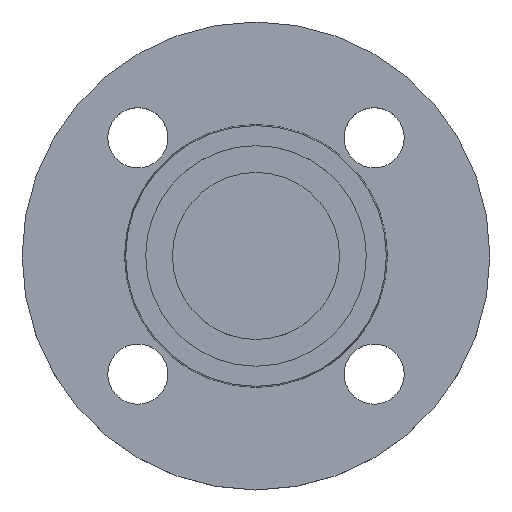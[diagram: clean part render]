
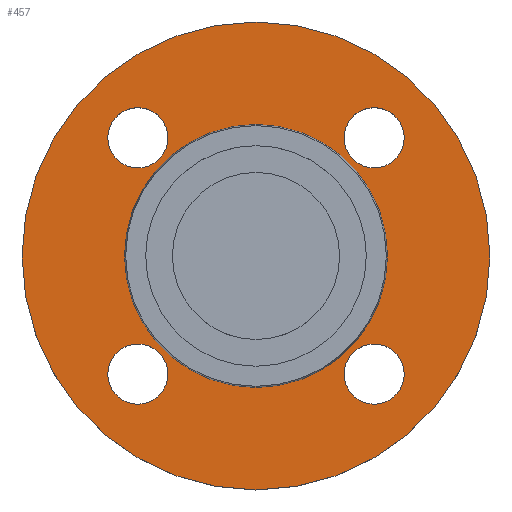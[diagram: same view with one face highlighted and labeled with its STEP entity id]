
A CAD part, top view. The second image highlights one B-rep face of the part: STEP entity #457.
In plain terms, the highlighted planar face has unit normal (0, 0, 1).
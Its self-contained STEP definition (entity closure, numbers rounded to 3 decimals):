
#11 = DIRECTION ( 'NONE',  ( 1., 0., 0. ) ) ;
#22 = EDGE_CURVE ( 'NONE', #816, #742, #538, .T. ) ;
#25 = CARTESIAN_POINT ( 'NONE',  ( 35.355, 35.355, -2. ) ) ;
#30 = DIRECTION ( 'NONE',  ( 0., 0., -1. ) ) ;
#53 = DIRECTION ( 'NONE',  ( 1., 0., 0. ) ) ;
#56 = DIRECTION ( 'NONE',  ( -1., 0., 0. ) ) ;
#60 = EDGE_LOOP ( 'NONE', ( #461, #366 ) ) ;
#69 = ORIENTED_EDGE ( 'NONE', *, *, #253, .T. ) ;
#73 = VERTEX_POINT ( 'NONE', #640 ) ;
#81 = AXIS2_PLACEMENT_3D ( 'NONE', #779, #145, #419 ) ;
#84 = DIRECTION ( 'NONE',  ( 0., 0., -1. ) ) ;
#87 = AXIS2_PLACEMENT_3D ( 'NONE', #414, #632, #11 ) ;
#92 = EDGE_CURVE ( 'NONE', #751, #73, #688, .T. ) ;
#111 = EDGE_LOOP ( 'NONE', ( #547, #69 ) ) ;
#134 = AXIS2_PLACEMENT_3D ( 'NONE', #863, #236, #504 ) ;
#136 = ORIENTED_EDGE ( 'NONE', *, *, #258, .T. ) ;
#145 = DIRECTION ( 'NONE',  ( 0., 0., -1. ) ) ;
#146 = EDGE_CURVE ( 'NONE', #500, #904, #531, .T. ) ;
#166 = CARTESIAN_POINT ( 'NONE',  ( 0., 0., -2. ) ) ;
#167 = DIRECTION ( 'NONE',  ( 1., 0., 0. ) ) ;
#171 = FACE_BOUND ( 'NONE', #111, .T. ) ;
#173 = AXIS2_PLACEMENT_3D ( 'NONE', #510, #799, #167 ) ;
#190 = AXIS2_PLACEMENT_3D ( 'NONE', #705, #84, #357 ) ;
#199 = EDGE_LOOP ( 'NONE', ( #136, #769 ) ) ;
#216 = CARTESIAN_POINT ( 'NONE',  ( -26.355, 35.355, -2. ) ) ;
#218 = VERTEX_POINT ( 'NONE', #444 ) ;
#227 = CARTESIAN_POINT ( 'NONE',  ( 0., 0., -2. ) ) ;
#233 = CARTESIAN_POINT ( 'NONE',  ( -35.355, -35.355, -2. ) ) ;
#236 = DIRECTION ( 'NONE',  ( 0., 0., -1. ) ) ;
#237 = AXIS2_PLACEMENT_3D ( 'NONE', #648, #30, #307 ) ;
#238 = DIRECTION ( 'NONE',  ( 0., 0., 1. ) ) ;
#246 = FACE_BOUND ( 'NONE', #60, .T. ) ;
#253 = EDGE_CURVE ( 'NONE', #73, #751, #880, .T. ) ;
#257 = ORIENTED_EDGE ( 'NONE', *, *, #22, .F. ) ;
#258 = EDGE_CURVE ( 'NONE', #904, #500, #593, .T. ) ;
#276 = CIRCLE ( 'NONE', #793, 9. ) ;
#284 = EDGE_LOOP ( 'NONE', ( #348, #834 ) ) ;
#285 = ORIENTED_EDGE ( 'NONE', *, *, #721, .T. ) ;
#292 = VERTEX_POINT ( 'NONE', #784 ) ;
#301 = DIRECTION ( 'NONE',  ( 0., 0., -1. ) ) ;
#304 = FACE_OUTER_BOUND ( 'NONE', #621, .T. ) ;
#307 = DIRECTION ( 'NONE',  ( 1., 0., 0. ) ) ;
#310 = AXIS2_PLACEMENT_3D ( 'NONE', #227, #495, #785 ) ;
#326 = CARTESIAN_POINT ( 'NONE',  ( -70., 0., -2. ) ) ;
#334 = AXIS2_PLACEMENT_3D ( 'NONE', #866, #238, #507 ) ;
#348 = ORIENTED_EDGE ( 'NONE', *, *, #627, .T. ) ;
#357 = DIRECTION ( 'NONE',  ( 1., 0., 0. ) ) ;
#366 = ORIENTED_EDGE ( 'NONE', *, *, #737, .T. ) ;
#370 = CARTESIAN_POINT ( 'NONE',  ( 44.355, 35.355, -2. ) ) ;
#390 = EDGE_CURVE ( 'NONE', #759, #292, #536, .T. ) ;
#391 = CARTESIAN_POINT ( 'NONE',  ( -35.355, -35.355, -2. ) ) ;
#395 = AXIS2_PLACEMENT_3D ( 'NONE', #391, #672, #53 ) ;
#396 = CARTESIAN_POINT ( 'NONE',  ( 0., 0., -2. ) ) ;
#414 = CARTESIAN_POINT ( 'NONE',  ( 35.355, 35.355, -2. ) ) ;
#419 = DIRECTION ( 'NONE',  ( -1., 0., 0. ) ) ;
#437 = DIRECTION ( 'NONE',  ( 0., 0., -1. ) ) ;
#444 = CARTESIAN_POINT ( 'NONE',  ( 44.355, -35.355, -2. ) ) ;
#455 = CARTESIAN_POINT ( 'NONE',  ( 26.355, 35.355, -2. ) ) ;
#457 = ADVANCED_FACE ( 'NONE', ( #876, #246, #516, #805, #171, #304 ), #577, .T. ) ;
#459 = CIRCLE ( 'NONE', #596, 70. ) ;
#460 = CARTESIAN_POINT ( 'NONE',  ( 70., 0., -2. ) ) ;
#461 = ORIENTED_EDGE ( 'NONE', *, *, #390, .T. ) ;
#462 = CIRCLE ( 'NONE', #87, 9. ) ;
#463 = VERTEX_POINT ( 'NONE', #796 ) ;
#470 = VERTEX_POINT ( 'NONE', #370 ) ;
#495 = DIRECTION ( 'NONE',  ( 0., 0., -1. ) ) ;
#500 = VERTEX_POINT ( 'NONE', #881 ) ;
#502 = DIRECTION ( 'NONE',  ( 0., 0., -1. ) ) ;
#504 = DIRECTION ( 'NONE',  ( 1., 0., 0. ) ) ;
#507 = DIRECTION ( 'NONE',  ( 1., 0., 0. ) ) ;
#510 = CARTESIAN_POINT ( 'NONE',  ( 35.355, -35.355, -2. ) ) ;
#516 = FACE_BOUND ( 'NONE', #199, .T. ) ;
#531 = CIRCLE ( 'NONE', #134, 9. ) ;
#536 = CIRCLE ( 'NONE', #664, 9. ) ;
#538 = CIRCLE ( 'NONE', #740, 70. ) ;
#543 = ORIENTED_EDGE ( 'NONE', *, *, #802, .F. ) ;
#547 = ORIENTED_EDGE ( 'NONE', *, *, #92, .T. ) ;
#573 = DIRECTION ( 'NONE',  ( 1., 0., 0. ) ) ;
#577 = PLANE ( 'NONE',  #334 ) ;
#593 = CIRCLE ( 'NONE', #190, 9. ) ;
#596 = AXIS2_PLACEMENT_3D ( 'NONE', #396, #677, #56 ) ;
#607 = CARTESIAN_POINT ( 'NONE',  ( -26.355, -35.355, -2. ) ) ;
#620 = CIRCLE ( 'NONE', #237, 9. ) ;
#621 = EDGE_LOOP ( 'NONE', ( #257, #543 ) ) ;
#625 = ORIENTED_EDGE ( 'NONE', *, *, #713, .T. ) ;
#627 = EDGE_CURVE ( 'NONE', #470, #750, #462, .T. ) ;
#632 = DIRECTION ( 'NONE',  ( 0., 0., -1. ) ) ;
#640 = CARTESIAN_POINT ( 'NONE',  ( 39.353, 0., -2. ) ) ;
#648 = CARTESIAN_POINT ( 'NONE',  ( 35.355, -35.355, -2. ) ) ;
#664 = AXIS2_PLACEMENT_3D ( 'NONE', #233, #502, #791 ) ;
#672 = DIRECTION ( 'NONE',  ( 0., 0., -1. ) ) ;
#677 = DIRECTION ( 'NONE',  ( 0., 0., -1. ) ) ;
#678 = EDGE_CURVE ( 'NONE', #750, #470, #276, .T. ) ;
#688 = CIRCLE ( 'NONE', #310, 39.353 ) ;
#705 = CARTESIAN_POINT ( 'NONE',  ( -35.355, 35.355, -2. ) ) ;
#713 = EDGE_CURVE ( 'NONE', #463, #218, #620, .T. ) ;
#721 = EDGE_CURVE ( 'NONE', #218, #463, #871, .T. ) ;
#723 = DIRECTION ( 'NONE',  ( -1., 0., 0. ) ) ;
#737 = EDGE_CURVE ( 'NONE', #292, #759, #807, .T. ) ;
#740 = AXIS2_PLACEMENT_3D ( 'NONE', #166, #437, #723 ) ;
#742 = VERTEX_POINT ( 'NONE', #326 ) ;
#744 = CARTESIAN_POINT ( 'NONE',  ( -39.353, 0., -2. ) ) ;
#750 = VERTEX_POINT ( 'NONE', #455 ) ;
#751 = VERTEX_POINT ( 'NONE', #744 ) ;
#758 = EDGE_LOOP ( 'NONE', ( #285, #625 ) ) ;
#759 = VERTEX_POINT ( 'NONE', #607 ) ;
#769 = ORIENTED_EDGE ( 'NONE', *, *, #146, .T. ) ;
#779 = CARTESIAN_POINT ( 'NONE',  ( 0., 0., -2. ) ) ;
#784 = CARTESIAN_POINT ( 'NONE',  ( -44.355, -35.355, -2. ) ) ;
#785 = DIRECTION ( 'NONE',  ( -1., 0., 0. ) ) ;
#791 = DIRECTION ( 'NONE',  ( 1., 0., 0. ) ) ;
#793 = AXIS2_PLACEMENT_3D ( 'NONE', #25, #301, #573 ) ;
#796 = CARTESIAN_POINT ( 'NONE',  ( 26.355, -35.355, -2. ) ) ;
#799 = DIRECTION ( 'NONE',  ( 0., 0., -1. ) ) ;
#802 = EDGE_CURVE ( 'NONE', #742, #816, #459, .T. ) ;
#805 = FACE_BOUND ( 'NONE', #284, .T. ) ;
#807 = CIRCLE ( 'NONE', #395, 9. ) ;
#816 = VERTEX_POINT ( 'NONE', #460 ) ;
#834 = ORIENTED_EDGE ( 'NONE', *, *, #678, .T. ) ;
#863 = CARTESIAN_POINT ( 'NONE',  ( -35.355, 35.355, -2. ) ) ;
#866 = CARTESIAN_POINT ( 'NONE',  ( 39.353, 0., -2. ) ) ;
#871 = CIRCLE ( 'NONE', #173, 9. ) ;
#876 = FACE_BOUND ( 'NONE', #758, .T. ) ;
#880 = CIRCLE ( 'NONE', #81, 39.353 ) ;
#881 = CARTESIAN_POINT ( 'NONE',  ( -44.355, 35.355, -2. ) ) ;
#904 = VERTEX_POINT ( 'NONE', #216 ) ;
